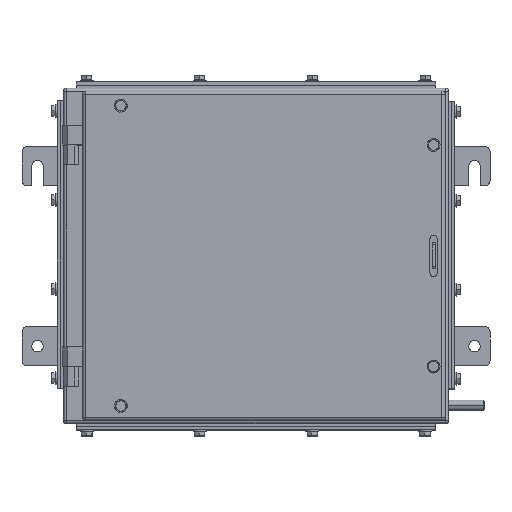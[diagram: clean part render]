
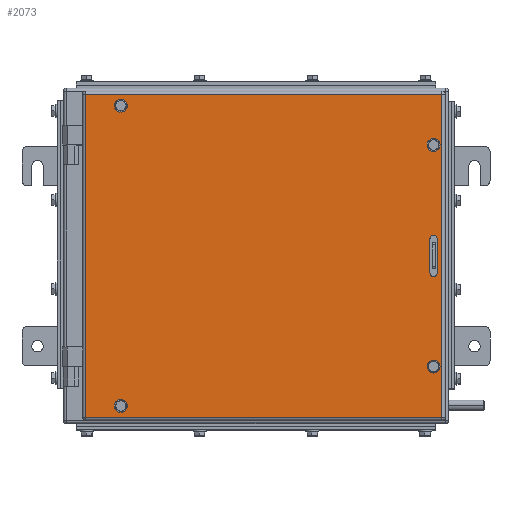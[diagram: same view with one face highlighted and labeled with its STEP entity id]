
A CAD part, top view. The second image highlights one B-rep face of the part: STEP entity #2073.
In plain terms, the highlighted planar face has unit normal (0, 0, 1).
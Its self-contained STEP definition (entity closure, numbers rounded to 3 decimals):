
#71 = ORIENTED_EDGE ( 'NONE', *, *, #22244, .F. ) ;
#262 = VERTEX_POINT ( 'NONE', #23345 ) ;
#697 = EDGE_CURVE ( 'NONE', #12995, #12505, #13552, .T. ) ;
#742 = CARTESIAN_POINT ( 'NONE',  ( 350., 16.5, 18. ) ) ;
#748 = DIRECTION ( 'NONE',  ( 0., 1., 0. ) ) ;
#770 = AXIS2_PLACEMENT_3D ( 'NONE', #21732, #13959, #19887 ) ;
#1222 = CARTESIAN_POINT ( 'NONE',  ( 361., 159., 18. ) ) ;
#1265 = VERTEX_POINT ( 'NONE', #13272 ) ;
#1665 = ORIENTED_EDGE ( 'NONE', *, *, #17320, .F. ) ;
#1725 = CARTESIAN_POINT ( 'NONE',  ( 358., 159., 18. ) ) ;
#1884 = CARTESIAN_POINT ( 'NONE',  ( 51.5, 145., 18. ) ) ;
#1981 = VERTEX_POINT ( 'NONE', #10203 ) ;
#2003 = CARTESIAN_POINT ( 'NONE',  ( 51.5, -145., 18. ) ) ;
#2073 = ADVANCED_FACE ( 'NONE', ( #11092, #22952, #17034, #12821, #2933, #4905 ), #21094, .F. ) ;
#2500 = CIRCLE ( 'NONE', #9651, 3.5 ) ;
#2696 = AXIS2_PLACEMENT_3D ( 'NONE', #22980, #20994, #22848 ) ;
#2933 = FACE_BOUND ( 'NONE', #7073, .T. ) ;
#3220 = CARTESIAN_POINT ( 'NONE',  ( 44.5, -145., 18. ) ) ;
#3597 = DIRECTION ( 'NONE',  ( 1., 0., 0. ) ) ;
#3701 = DIRECTION ( 'NONE',  ( 0., 1., 0. ) ) ;
#3857 = AXIS2_PLACEMENT_3D ( 'NONE', #4558, #20631, #6797 ) ;
#3970 = EDGE_CURVE ( 'NONE', #16608, #6653, #2500, .T. ) ;
#4377 = DIRECTION ( 'NONE',  ( 0., -1., 0. ) ) ;
#4380 = CIRCLE ( 'NONE', #21617, 3.5 ) ;
#4558 = CARTESIAN_POINT ( 'NONE',  ( 350., -107., 18. ) ) ;
#4905 = FACE_OUTER_BOUND ( 'NONE', #18991, .T. ) ;
#4992 = DIRECTION ( 'NONE',  ( 1., 0., 0. ) ) ;
#5013 = ORIENTED_EDGE ( 'NONE', *, *, #16389, .T. ) ;
#5240 = AXIS2_PLACEMENT_3D ( 'NONE', #18931, #12506, #6843 ) ;
#5378 = EDGE_CURVE ( 'NONE', #6653, #16608, #16493, .T. ) ;
#5554 = ORIENTED_EDGE ( 'NONE', *, *, #16754, .F. ) ;
#5617 = CARTESIAN_POINT ( 'NONE',  ( 350., -16.5, 18. ) ) ;
#6021 = EDGE_CURVE ( 'NONE', #20018, #7863, #10037, .T. ) ;
#6090 = AXIS2_PLACEMENT_3D ( 'NONE', #742, #22598, #10615 ) ;
#6562 = CARTESIAN_POINT ( 'NONE',  ( 353.5, 16.5, 18. ) ) ;
#6587 = EDGE_CURVE ( 'NONE', #262, #12995, #24441, .T. ) ;
#6653 = VERTEX_POINT ( 'NONE', #12187 ) ;
#6797 = DIRECTION ( 'NONE',  ( 1., 0., 0. ) ) ;
#6843 = DIRECTION ( 'NONE',  ( 1., 0., 0. ) ) ;
#6848 = CIRCLE ( 'NONE', #11489, 3.5 ) ;
#7068 = CARTESIAN_POINT ( 'NONE',  ( 358., 156., 18. ) ) ;
#7073 = EDGE_LOOP ( 'NONE', ( #14850, #13852 ) ) ;
#7657 = ORIENTED_EDGE ( 'NONE', *, *, #697, .T. ) ;
#7851 = VERTEX_POINT ( 'NONE', #9665 ) ;
#7863 = VERTEX_POINT ( 'NONE', #3220 ) ;
#8175 = DIRECTION ( 'NONE',  ( 0., 0., 1. ) ) ;
#8734 = AXIS2_PLACEMENT_3D ( 'NONE', #17543, #19654, #23875 ) ;
#8933 = CARTESIAN_POINT ( 'NONE',  ( 353.5, 107., 18. ) ) ;
#9284 = DIRECTION ( 'NONE',  ( 1., 0., 0. ) ) ;
#9302 = VERTEX_POINT ( 'NONE', #7068 ) ;
#9623 = CARTESIAN_POINT ( 'NONE',  ( 353.5, 16.5, 18. ) ) ;
#9651 = AXIS2_PLACEMENT_3D ( 'NONE', #14771, #22947, #3597 ) ;
#9665 = CARTESIAN_POINT ( 'NONE',  ( 353.5, -16.5, 18. ) ) ;
#10037 = CIRCLE ( 'NONE', #770, 3.5 ) ;
#10203 = CARTESIAN_POINT ( 'NONE',  ( 346.5, 16.5, 18. ) ) ;
#10486 = CARTESIAN_POINT ( 'NONE',  ( 14., 159., 18. ) ) ;
#10503 = EDGE_LOOP ( 'NONE', ( #71, #14242, #12242, #24885 ) ) ;
#10577 = CARTESIAN_POINT ( 'NONE',  ( 14., -156., 18. ) ) ;
#10615 = DIRECTION ( 'NONE',  ( 1., 0., 0. ) ) ;
#11092 = FACE_BOUND ( 'NONE', #10503, .T. ) ;
#11489 = AXIS2_PLACEMENT_3D ( 'NONE', #5617, #21403, #9284 ) ;
#11626 = ORIENTED_EDGE ( 'NONE', *, *, #23378, .F. ) ;
#11844 = CARTESIAN_POINT ( 'NONE',  ( 48., -145., 18. ) ) ;
#11892 = CIRCLE ( 'NONE', #14417, 3.5 ) ;
#12037 = EDGE_LOOP ( 'NONE', ( #1665, #13591 ) ) ;
#12071 = DIRECTION ( 'NONE',  ( 0., -1., 0. ) ) ;
#12187 = CARTESIAN_POINT ( 'NONE',  ( 44.5, 145., 18. ) ) ;
#12242 = ORIENTED_EDGE ( 'NONE', *, *, #15782, .F. ) ;
#12505 = VERTEX_POINT ( 'NONE', #22706 ) ;
#12506 = DIRECTION ( 'NONE',  ( 0., 0., 1. ) ) ;
#12821 = FACE_BOUND ( 'NONE', #12037, .T. ) ;
#12930 = EDGE_LOOP ( 'NONE', ( #5554, #11626 ) ) ;
#12995 = VERTEX_POINT ( 'NONE', #10577 ) ;
#13272 = CARTESIAN_POINT ( 'NONE',  ( 346.5, -16.5, 18. ) ) ;
#13369 = CARTESIAN_POINT ( 'NONE',  ( 346.5, -107., 18. ) ) ;
#13552 = LINE ( 'NONE', #23041, #20684 ) ;
#13591 = ORIENTED_EDGE ( 'NONE', *, *, #17427, .F. ) ;
#13635 = CIRCLE ( 'NONE', #2696, 3.5 ) ;
#13810 = EDGE_CURVE ( 'NONE', #7863, #20018, #11892, .T. ) ;
#13852 = ORIENTED_EDGE ( 'NONE', *, *, #5378, .F. ) ;
#13873 = ORIENTED_EDGE ( 'NONE', *, *, #6587, .T. ) ;
#13959 = DIRECTION ( 'NONE',  ( 0., 0., 1. ) ) ;
#14242 = ORIENTED_EDGE ( 'NONE', *, *, #21880, .F. ) ;
#14358 = ORIENTED_EDGE ( 'NONE', *, *, #18043, .T. ) ;
#14417 = AXIS2_PLACEMENT_3D ( 'NONE', #11844, #8175, #19894 ) ;
#14771 = CARTESIAN_POINT ( 'NONE',  ( 48., 145., 18. ) ) ;
#14850 = ORIENTED_EDGE ( 'NONE', *, *, #3970, .F. ) ;
#14885 = VECTOR ( 'NONE', #748, 1000. ) ;
#15196 = CIRCLE ( 'NONE', #3857, 3.5 ) ;
#15312 = VERTEX_POINT ( 'NONE', #8933 ) ;
#15425 = EDGE_LOOP ( 'NONE', ( #15836, #24448 ) ) ;
#15519 = CARTESIAN_POINT ( 'NONE',  ( 346.5, 107., 18. ) ) ;
#15782 = EDGE_CURVE ( 'NONE', #7851, #19734, #22486, .T. ) ;
#15836 = ORIENTED_EDGE ( 'NONE', *, *, #6021, .F. ) ;
#16032 = VERTEX_POINT ( 'NONE', #13369 ) ;
#16389 = EDGE_CURVE ( 'NONE', #12505, #9302, #23570, .T. ) ;
#16493 = CIRCLE ( 'NONE', #8734, 3.5 ) ;
#16608 = VERTEX_POINT ( 'NONE', #1884 ) ;
#16754 = EDGE_CURVE ( 'NONE', #18434, #16032, #17031, .T. ) ;
#16907 = VERTEX_POINT ( 'NONE', #15519 ) ;
#17031 = CIRCLE ( 'NONE', #5240, 3.5 ) ;
#17034 = FACE_BOUND ( 'NONE', #12930, .T. ) ;
#17271 = DIRECTION ( 'NONE',  ( 0., 0., -1. ) ) ;
#17320 = EDGE_CURVE ( 'NONE', #15312, #16907, #4380, .T. ) ;
#17427 = EDGE_CURVE ( 'NONE', #16907, #15312, #13635, .T. ) ;
#17543 = CARTESIAN_POINT ( 'NONE',  ( 48., 145., 18. ) ) ;
#17839 = CIRCLE ( 'NONE', #6090, 3.5 ) ;
#18043 = EDGE_CURVE ( 'NONE', #9302, #262, #19374, .T. ) ;
#18294 = VECTOR ( 'NONE', #3701, 1000. ) ;
#18434 = VERTEX_POINT ( 'NONE', #23440 ) ;
#18763 = DIRECTION ( 'NONE',  ( 0., 0., 1. ) ) ;
#18931 = CARTESIAN_POINT ( 'NONE',  ( 350., -107., 18. ) ) ;
#18991 = EDGE_LOOP ( 'NONE', ( #7657, #5013, #14358, #13873 ) ) ;
#19015 = CARTESIAN_POINT ( 'NONE',  ( 350., 107., 18. ) ) ;
#19374 = LINE ( 'NONE', #20452, #21058 ) ;
#19654 = DIRECTION ( 'NONE',  ( 0., 0., 1. ) ) ;
#19734 = VERTEX_POINT ( 'NONE', #9623 ) ;
#19887 = DIRECTION ( 'NONE',  ( 1., 0., 0. ) ) ;
#19894 = DIRECTION ( 'NONE',  ( 1., 0., 0. ) ) ;
#20018 = VERTEX_POINT ( 'NONE', #2003 ) ;
#20452 = CARTESIAN_POINT ( 'NONE',  ( 361., 156., 18. ) ) ;
#20631 = DIRECTION ( 'NONE',  ( 0., 0., 1. ) ) ;
#20684 = VECTOR ( 'NONE', #4992, 1000. ) ;
#20693 = CARTESIAN_POINT ( 'NONE',  ( 346.5, 16.5, 18. ) ) ;
#20994 = DIRECTION ( 'NONE',  ( 0., 0., 1. ) ) ;
#21058 = VECTOR ( 'NONE', #24388, 1000. ) ;
#21094 = PLANE ( 'NONE',  #23709 ) ;
#21136 = DIRECTION ( 'NONE',  ( 1., 0., 0. ) ) ;
#21240 = VECTOR ( 'NONE', #4377, 1000. ) ;
#21403 = DIRECTION ( 'NONE',  ( 0., 0., 1. ) ) ;
#21617 = AXIS2_PLACEMENT_3D ( 'NONE', #19015, #18763, #21136 ) ;
#21732 = CARTESIAN_POINT ( 'NONE',  ( 48., -145., 18. ) ) ;
#21880 = EDGE_CURVE ( 'NONE', #19734, #1981, #17839, .T. ) ;
#22244 = EDGE_CURVE ( 'NONE', #1981, #1265, #22409, .T. ) ;
#22409 = LINE ( 'NONE', #20693, #21240 ) ;
#22486 = LINE ( 'NONE', #6562, #14885 ) ;
#22598 = DIRECTION ( 'NONE',  ( 0., 0., 1. ) ) ;
#22706 = CARTESIAN_POINT ( 'NONE',  ( 358., -156., 18. ) ) ;
#22809 = DIRECTION ( 'NONE',  ( -1., 0., 0. ) ) ;
#22848 = DIRECTION ( 'NONE',  ( 1., 0., 0. ) ) ;
#22947 = DIRECTION ( 'NONE',  ( 0., 0., 1. ) ) ;
#22952 = FACE_BOUND ( 'NONE', #15425, .T. ) ;
#22980 = CARTESIAN_POINT ( 'NONE',  ( 350., 107., 18. ) ) ;
#23041 = CARTESIAN_POINT ( 'NONE',  ( 361., -156., 18. ) ) ;
#23345 = CARTESIAN_POINT ( 'NONE',  ( 14., 156., 18. ) ) ;
#23378 = EDGE_CURVE ( 'NONE', #16032, #18434, #15196, .T. ) ;
#23440 = CARTESIAN_POINT ( 'NONE',  ( 353.5, -107., 18. ) ) ;
#23570 = LINE ( 'NONE', #1725, #18294 ) ;
#23709 = AXIS2_PLACEMENT_3D ( 'NONE', #1222, #17271, #22809 ) ;
#23875 = DIRECTION ( 'NONE',  ( 1., 0., 0. ) ) ;
#24388 = DIRECTION ( 'NONE',  ( -1., 0., 0. ) ) ;
#24441 = LINE ( 'NONE', #10486, #25487 ) ;
#24448 = ORIENTED_EDGE ( 'NONE', *, *, #13810, .F. ) ;
#24885 = ORIENTED_EDGE ( 'NONE', *, *, #24947, .F. ) ;
#24947 = EDGE_CURVE ( 'NONE', #1265, #7851, #6848, .T. ) ;
#25487 = VECTOR ( 'NONE', #12071, 1000. ) ;
